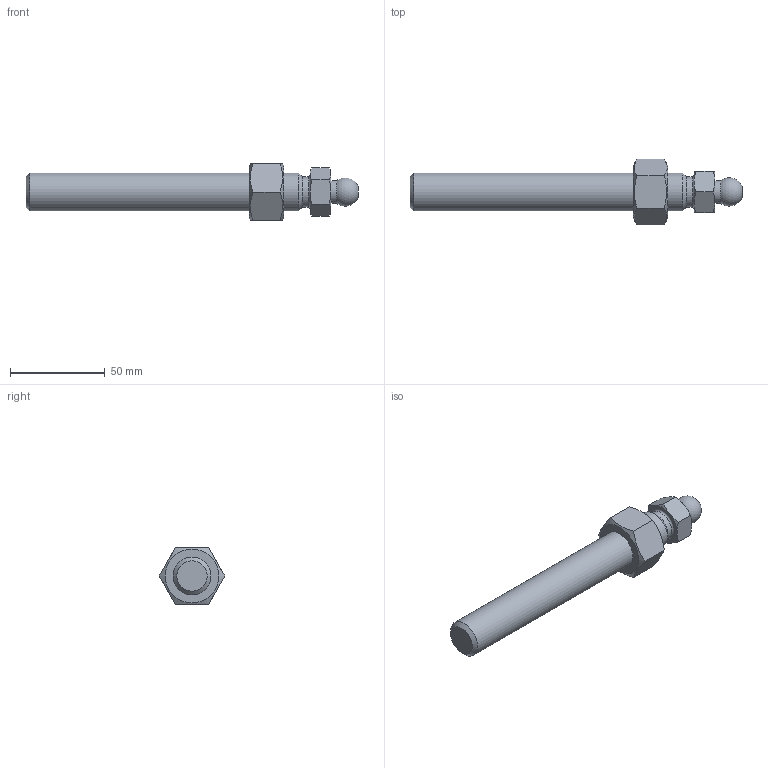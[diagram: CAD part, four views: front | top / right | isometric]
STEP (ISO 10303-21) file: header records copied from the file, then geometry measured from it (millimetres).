
FILE_DESCRIPTION(('STEP AP203'), '1');
FILE_NAME('A00020.120150', '', ('UNSPECIFIED'), ('UNSPECIFIED'), 'C3D Converter', 'C3D Toolkit', '');
FILE_SCHEMA(('CONFIG_CONTROL_DESIGN'));
Length unit declared in the file: millimetre
Products named in the file (2): A00020.120150
Assembly tree (1 placements, depth 2):
  A00020.120150
    (unnamed)
Bounding box: 175.3 x 34.64 x 30 mm (x, y, z)
Volume: 62492.5 mm3; surface area: 15337.7 mm2
Topology: 2 solids, 2 shells, 42 faces, 92 edges, 56 vertices
Faces by surface type: plane 18, cone 18, cylinder 4, sphere 1, torus 1
Full cylindrical faces by diameter (mm): 12 x1, 16 x1, 17.294 x1, 20 x1
Entity records: 2335 total; most frequent: CARTESIAN_POINT 1205, DIRECTION 160, ORIENTED_EDGE 156, EDGE_CURVE 78, AXIS2_PLACEMENT_3D 74, EDGE_LOOP 57, VERTEX_POINT 55, ADVANCED_FACE 41
